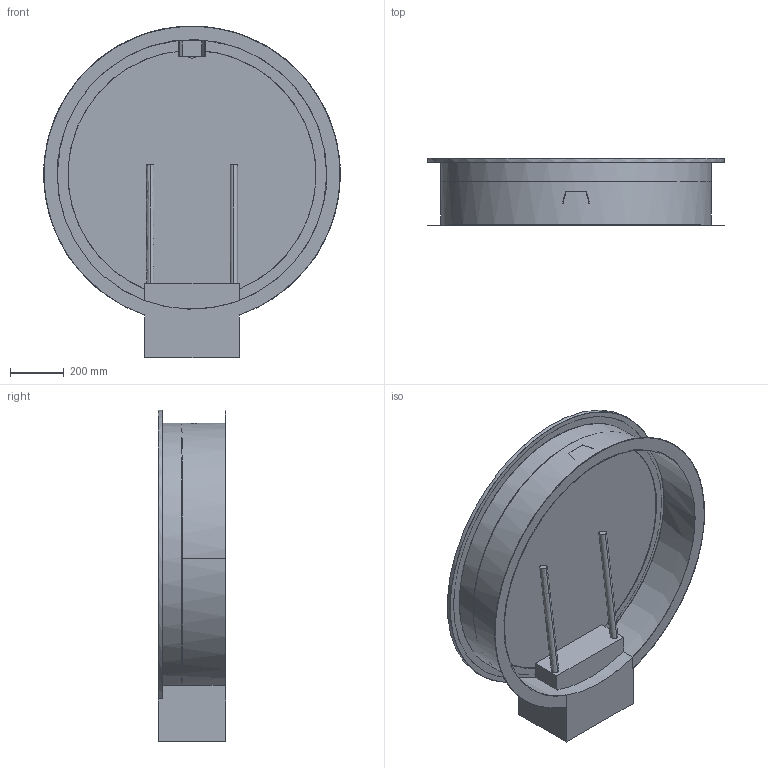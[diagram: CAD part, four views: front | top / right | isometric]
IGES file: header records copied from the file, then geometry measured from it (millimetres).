
Start section:  PTC IGES file: 51526202.igs
Global section: file name: 51526202.igs; native system: Creo Parametric by PTC Inc.; preprocessor: 2019224; author: wj; organization: Unknown; date: 20200921.144959; units: millimetre
Bounding box: 1099.34 x 250 x 1230.22 mm (x, y, z)
Surface area: 4534820.7 mm2 (no closed solid volume)
Topology: 0 solids, 0 shells, 57 faces, 276 edges, 276 vertices
Faces by surface type: bspline 33, revolution 24
